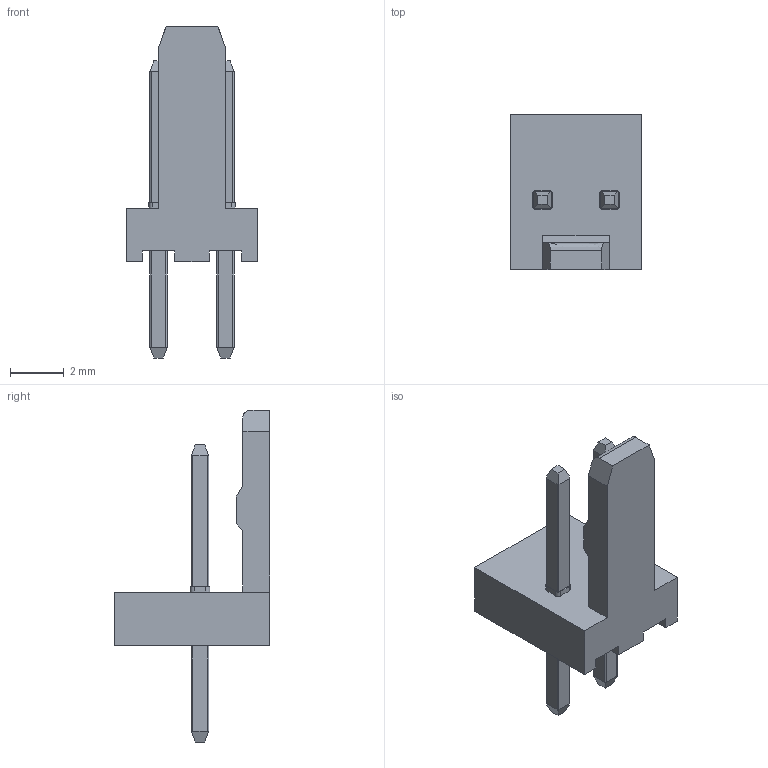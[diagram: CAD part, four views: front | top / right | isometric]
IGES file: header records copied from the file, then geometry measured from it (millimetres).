
Start section: SolidWorks IGES file using analytic representation for surfaces
Global section: file name: N:\Kamikawa_Hisako\★三次元モデル作成依頼\8263\00_8263_0212_00_000+.IGS; native system: SolidWorks 2017; preprocessor: SolidWorks 2017; author: HISAKO.KAMIKAWA.FJ; date: 211216.144903; units: millimetre
Bounding box: 4.9 x 5.8 x 12.4 mm (x, y, z)
Surface area: 200.5 mm2 (no closed solid volume)
Topology: 0 solids, 0 shells, 95 faces, 628 edges, 628 vertices
Faces by surface type: bspline 70, revolution 25
